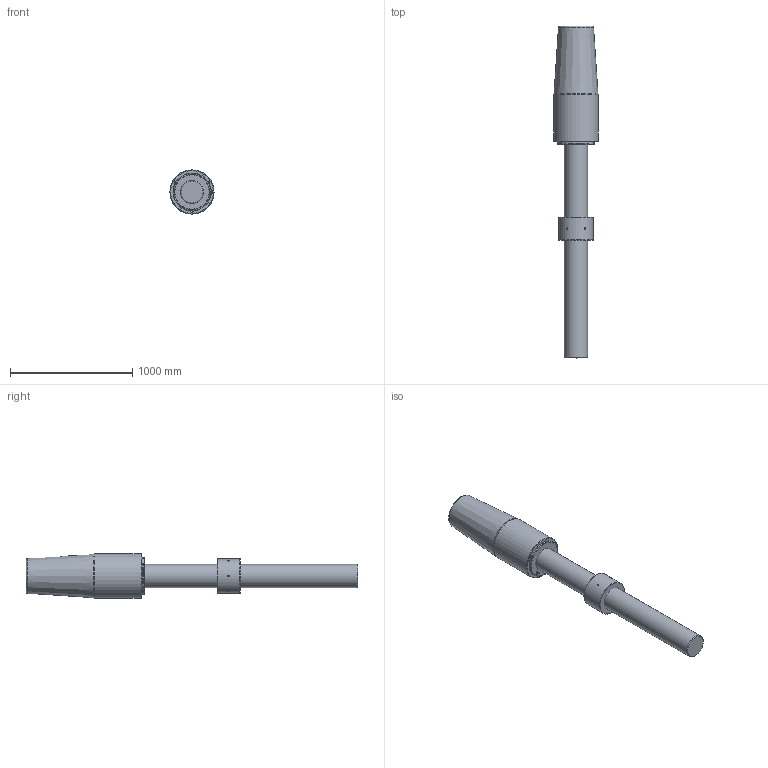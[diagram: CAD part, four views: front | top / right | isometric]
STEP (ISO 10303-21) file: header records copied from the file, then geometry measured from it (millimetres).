
FILE_DESCRIPTION(/* description */ (''),/* implementation_level */ '2;1');
FILE_NAME(/* name */ 'D:\Clienti\Redaelli (inventor)\CYB\STEP\Arrangement\CYB124 52 061 0.stp',/* time_stamp */ '2021-05-08T14:58:50+02:00',/* author */ ('fabri'),/* organization */ (''),/* preprocessor_version */ 'ST-DEVELOPER v16.13',/* originating_system */ 'Autodesk Inventor 2018',/* authorisation */ '');
FILE_SCHEMA (('AUTOMOTIVE_DESIGN { 1 0 10303 214 3 1 1 }'));
Length unit declared in the file: millimetre
Products named in the file (5): CYB124 52 061 0; RNT052 41 051 0_ROD; RNT052 41 051 0_ROD_1; CCY021-51-061-0_BUSH; CCY021-51-061-0
Assembly tree (4 placements, depth 2):
  CYB124 52 061 0
    RNT052 41 051 0_ROD
    RNT052 41 051 0_ROD_1
    CCY021-51-061-0_BUSH
    CCY021-51-061-0
Bounding box: 360 x 2713 x 360 mm (x, y, z)
Volume: 157531448.6 mm3; surface area: 3239011 mm2
Topology: 4 solids, 4 shells, 687 faces, 1848 edges, 1227 vertices
Faces by surface type: plane 365, bspline 284, cylinder 18, cone 16, torus 4
Full cylindrical faces by diameter (mm): 15 x6, 20.752 x3, 181.34 x2, 190 x1, 192 x1, 259 x1, 275 x1, 285 x1, 310 x1, 360 x1
Entity records: 22872 total; most frequent: CARTESIAN_POINT 7629, ORIENTED_EDGE 3598, DIRECTION 2087, EDGE_CURVE 1799, VERTEX_POINT 1217, LINE 1177, VECTOR 1177, EDGE_LOOP 788
